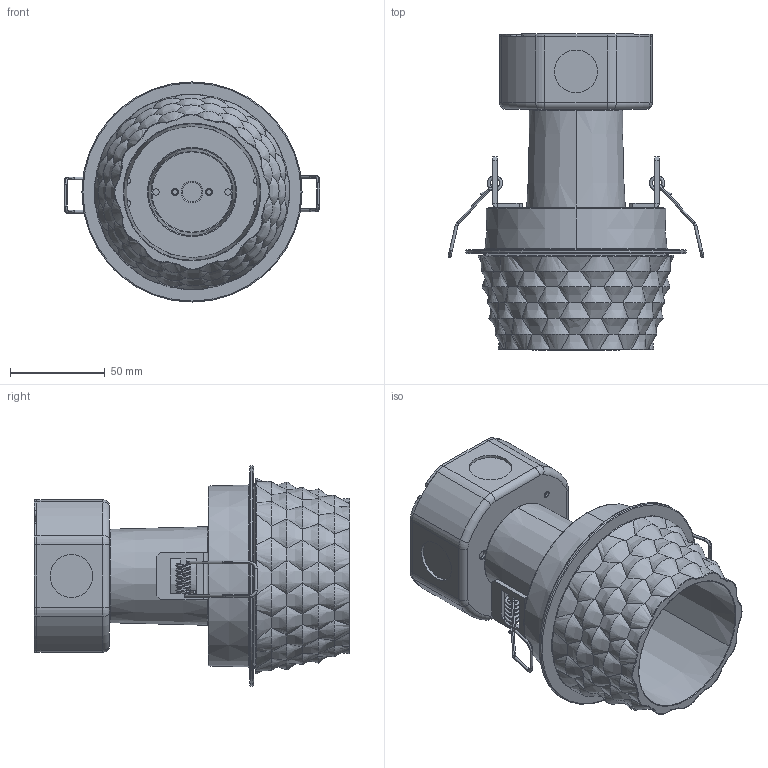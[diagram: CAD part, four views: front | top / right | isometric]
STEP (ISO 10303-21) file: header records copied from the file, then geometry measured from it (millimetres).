
FILE_DESCRIPTION (( 'STEP AP203' ), '1' );
FILE_NAME ('UFFEDORA-PER 3D.STEP', '2024-05-29T15:24:42', ( '' ), ( '' ), 'SwSTEP 2.0', 'SolidWorks 2024', '' );
FILE_SCHEMA (( 'CONFIG_CONTROL_DESIGN' ));
Length unit declared in the file: millimetre
Products named in the file (8): 24151-01; AX27-DL-1-02; MUFFEDORA-PER 3D; AX27-DL-1-04; UFFEDORA-PER 3D; FEDORA-SP1-1-5-01; FEDORA-FA-1-04; 24151-02
Assembly tree (9 placements, depth 3):
  UFFEDORA-PER 3D
    MUFFEDORA-PER 3D
      FEDORA-FA-1-04
      AX27-DL-1-02  x2
      AX27-DL-1-04  x2
      24151-01
      24151-02
    FEDORA-SP1-1-5-01
Bounding box: 134.67 x 166.5 x 116.08 mm (x, y, z)
Volume: 295125.3 mm3; surface area: 144044 mm2
Topology: 13 solids, 13 shells, 640 faces, 1598 edges, 988 vertices
Faces by surface type: bspline 217, cylinder 162, plane 119, torus 110, cone 32
Entity records: 37046 total; most frequent: CARTESIAN_POINT 23488, ORIENTED_EDGE 2870, DIRECTION 2317, EDGE_CURVE 1435, AXIS2_PLACEMENT_3D 924, VERTEX_POINT 886, EDGE_LOOP 629, ADVANCED_FACE 575
